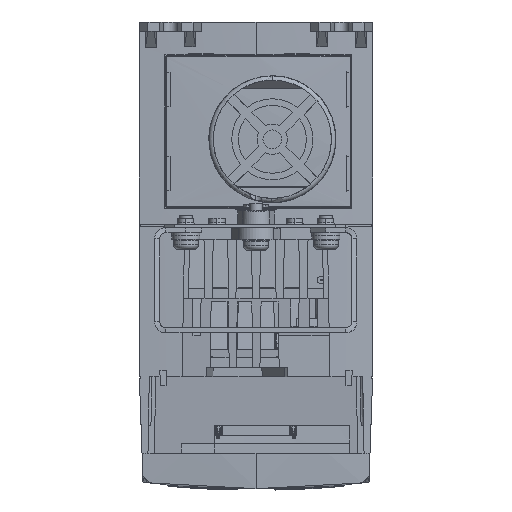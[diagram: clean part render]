
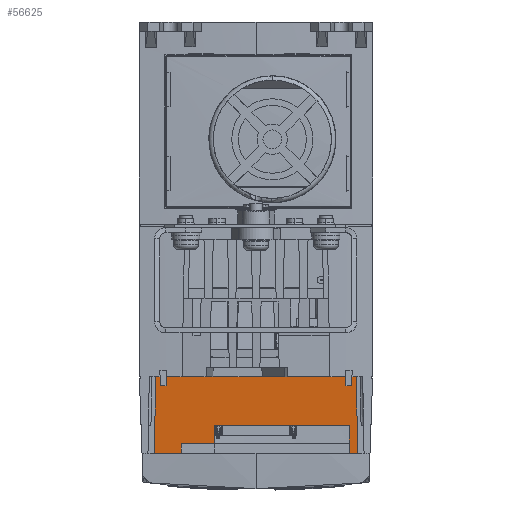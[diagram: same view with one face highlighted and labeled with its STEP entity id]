
A CAD part, front view. The second image highlights one B-rep face of the part: STEP entity #56625.
In plain terms, the highlighted planar face has unit normal (0, -0.996, -0.087).
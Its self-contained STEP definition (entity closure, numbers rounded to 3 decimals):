
#247 = DIRECTION ( 'NONE',  ( -1., 0., 0. ) ) ;
#492 = EDGE_CURVE ( 'NONE', #65433, #123253, #57073, .T. ) ;
#606 = CARTESIAN_POINT ( 'NONE',  ( -32.681, -18.639, -138.7 ) ) ;
#803 = ORIENTED_EDGE ( 'NONE', *, *, #111574, .F. ) ;
#1173 = LINE ( 'NONE', #53835, #84989 ) ;
#4025 = VERTEX_POINT ( 'NONE', #40295 ) ;
#4399 = CARTESIAN_POINT ( 'NONE',  ( -19.218, -20.8, -114. ) ) ;
#5054 = ORIENTED_EDGE ( 'NONE', *, *, #61659, .T. ) ;
#5450 = ORIENTED_EDGE ( 'NONE', *, *, #38957, .F. ) ;
#7184 = DIRECTION ( 'NONE',  ( -0.017, -0.087, 0.996 ) ) ;
#8820 = ORIENTED_EDGE ( 'NONE', *, *, #116180, .F. ) ;
#10459 = CARTESIAN_POINT ( 'NONE',  ( -24.056, -18.919, -135.5 ) ) ;
#10494 = DIRECTION ( 'NONE',  ( 0., -0.087, 0.996 ) ) ;
#10551 = VERTEX_POINT ( 'NONE', #128954 ) ;
#12972 = CARTESIAN_POINT ( 'NONE',  ( 15.874, -20.8, -114. ) ) ;
#13215 = EDGE_CURVE ( 'NONE', #116108, #101022, #89800, .T. ) ;
#17881 = CARTESIAN_POINT ( 'NONE',  ( 32.25, -20.8, -114. ) ) ;
#18061 = LINE ( 'NONE', #29818, #108222 ) ;
#18420 = DIRECTION ( 'NONE',  ( -1., 0., 0. ) ) ;
#21170 = VECTOR ( 'NONE', #90203, 1000. ) ;
#21823 = FACE_OUTER_BOUND ( 'NONE', #82124, .T. ) ;
#23387 = CARTESIAN_POINT ( 'NONE',  ( 32.681, -18.639, -138.7 ) ) ;
#26550 = CARTESIAN_POINT ( 'NONE',  ( 23.218, -20.8, -114. ) ) ;
#26745 = LINE ( 'NONE', #80040, #41443 ) ;
#28128 = CARTESIAN_POINT ( 'NONE',  ( -24., -18.639, -138.7 ) ) ;
#29622 = VECTOR ( 'NONE', #104893, 1000. ) ;
#29818 = CARTESIAN_POINT ( 'NONE',  ( 1.992, -20.8, -114. ) ) ;
#33249 = DIRECTION ( 'NONE',  ( 1., 0., 0. ) ) ;
#33342 = EDGE_CURVE ( 'NONE', #65730, #85111, #26745, .T. ) ;
#35123 = DIRECTION ( 'NONE',  ( 0.017, -0.087, 0.996 ) ) ;
#35255 = ORIENTED_EDGE ( 'NONE', *, *, #100074, .F. ) ;
#35807 = VECTOR ( 'NONE', #33249, 1000. ) ;
#37364 = EDGE_CURVE ( 'NONE', #79874, #89402, #114452, .T. ) ;
#38569 = VECTOR ( 'NONE', #18420, 1000. ) ;
#38957 = EDGE_CURVE ( 'NONE', #10551, #134940, #85908, .T. ) ;
#39106 = VECTOR ( 'NONE', #46018, 1000. ) ;
#39399 = LINE ( 'NONE', #61549, #53437 ) ;
#39669 = VECTOR ( 'NONE', #119703, 1000. ) ;
#40295 = CARTESIAN_POINT ( 'NONE',  ( -13.892, -20.8, -114. ) ) ;
#41443 = VECTOR ( 'NONE', #68279, 1000. ) ;
#42577 = DIRECTION ( 'NONE',  ( 0., 0.996, 0.087 ) ) ;
#42942 = CARTESIAN_POINT ( 'NONE',  ( 23.218, -20.8, -114. ) ) ;
#43010 = EDGE_CURVE ( 'NONE', #96584, #60635, #124705, .T. ) ;
#45387 = LINE ( 'NONE', #46751, #107028 ) ;
#45570 = ORIENTED_EDGE ( 'NONE', *, *, #130220, .F. ) ;
#45684 = LINE ( 'NONE', #118356, #39669 ) ;
#46018 = DIRECTION ( 'NONE',  ( -0.017, -0.087, 0.996 ) ) ;
#46751 = CARTESIAN_POINT ( 'NONE',  ( -32.25, -20.8, -114. ) ) ;
#48510 = EDGE_CURVE ( 'NONE', #89402, #4025, #39399, .T. ) ;
#50068 = ORIENTED_EDGE ( 'NONE', *, *, #51850, .F. ) ;
#50412 = CARTESIAN_POINT ( 'NONE',  ( -13.25, -18.919, -135.5 ) ) ;
#50971 = ORIENTED_EDGE ( 'NONE', *, *, #13215, .F. ) ;
#51850 = EDGE_CURVE ( 'NONE', #96584, #123253, #86113, .T. ) ;
#53437 = VECTOR ( 'NONE', #90659, 1000. ) ;
#53835 = CARTESIAN_POINT ( 'NONE',  ( 29.95, -19.426, -129.7 ) ) ;
#53889 = ORIENTED_EDGE ( 'NONE', *, *, #130044, .F. ) ;
#53986 = EDGE_CURVE ( 'NONE', #134940, #83936, #79166, .T. ) ;
#54358 = CARTESIAN_POINT ( 'NONE',  ( -32.25, -18.55, -139.718 ) ) ;
#55021 = CARTESIAN_POINT ( 'NONE',  ( -13.892, -20.8, -114. ) ) ;
#55029 = PLANE ( 'NONE',  #74776 ) ;
#55706 = CARTESIAN_POINT ( 'NONE',  ( -13.25, -19.426, -129.7 ) ) ;
#56380 = CARTESIAN_POINT ( 'NONE',  ( -24., -18.639, -138.7 ) ) ;
#56625 = ADVANCED_FACE ( 'NONE', ( #21823 ), #55029, .F. ) ;
#57073 = LINE ( 'NONE', #56380, #39106 ) ;
#57832 = VERTEX_POINT ( 'NONE', #92859 ) ;
#58950 = EDGE_CURVE ( 'NONE', #57832, #72479, #18061, .T. ) ;
#59234 = ORIENTED_EDGE ( 'NONE', *, *, #53986, .F. ) ;
#60635 = VERTEX_POINT ( 'NONE', #55706 ) ;
#60951 = ORIENTED_EDGE ( 'NONE', *, *, #43010, .T. ) ;
#60954 = DIRECTION ( 'NONE',  ( 1., 0., 0. ) ) ;
#61064 = CARTESIAN_POINT ( 'NONE',  ( -13.25, -18.919, -135.5 ) ) ;
#61079 = ORIENTED_EDGE ( 'NONE', *, *, #33342, .F. ) ;
#61270 = CARTESIAN_POINT ( 'NONE',  ( 32.182, -20.8, -114. ) ) ;
#61549 = CARTESIAN_POINT ( 'NONE',  ( -19.218, -20.8, -114. ) ) ;
#61659 = EDGE_CURVE ( 'NONE', #134567, #97916, #70908, .T. ) ;
#61885 = VECTOR ( 'NONE', #122741, 1000. ) ;
#62681 = LINE ( 'NONE', #55021, #29622 ) ;
#63535 = VECTOR ( 'NONE', #87170, 1000. ) ;
#64863 = VECTOR ( 'NONE', #85076, 1000. ) ;
#64903 = EDGE_CURVE ( 'NONE', #101022, #79874, #45387, .T. ) ;
#65433 = VERTEX_POINT ( 'NONE', #103734 ) ;
#65730 = VERTEX_POINT ( 'NONE', #126682 ) ;
#66856 = VECTOR ( 'NONE', #7184, 1000. ) ;
#68279 = DIRECTION ( 'NONE',  ( 0., -0.087, 0.996 ) ) ;
#70908 = LINE ( 'NONE', #124123, #66856 ) ;
#72479 = VERTEX_POINT ( 'NONE', #12972 ) ;
#74577 = ORIENTED_EDGE ( 'NONE', *, *, #58950, .F. ) ;
#74776 = AXIS2_PLACEMENT_3D ( 'NONE', #54358, #42577, #75134 ) ;
#75134 = DIRECTION ( 'NONE',  ( 1., 0., 0. ) ) ;
#75334 = LINE ( 'NONE', #23387, #64863 ) ;
#77330 = DIRECTION ( 'NONE',  ( -1., 0., 0. ) ) ;
#78306 = VECTOR ( 'NONE', #10494, 1000. ) ;
#79166 = LINE ( 'NONE', #26550, #21170 ) ;
#79874 = VERTEX_POINT ( 'NONE', #82032 ) ;
#80040 = CARTESIAN_POINT ( 'NONE',  ( 29.95, -18.639, -138.7 ) ) ;
#82032 = CARTESIAN_POINT ( 'NONE',  ( -32.182, -20.8, -114. ) ) ;
#82104 = LINE ( 'NONE', #28128, #38569 ) ;
#82124 = EDGE_LOOP ( 'NONE', ( #50971, #45570, #121612, #50068, #60951, #53889, #61079, #803, #5054, #8820, #59234, #5450, #35255, #74577, #85952, #86894, #120831, #135877 ) ) ;
#83936 = VERTEX_POINT ( 'NONE', #61270 ) ;
#84989 = VECTOR ( 'NONE', #77330, 1000. ) ;
#85076 = DIRECTION ( 'NONE',  ( -1., 0., 0. ) ) ;
#85111 = VERTEX_POINT ( 'NONE', #115948 ) ;
#85130 = VECTOR ( 'NONE', #35123, 1000. ) ;
#85908 = LINE ( 'NONE', #128066, #35807 ) ;
#85952 = ORIENTED_EDGE ( 'NONE', *, *, #89355, .F. ) ;
#86113 = LINE ( 'NONE', #128259, #111309 ) ;
#86894 = ORIENTED_EDGE ( 'NONE', *, *, #48510, .F. ) ;
#87170 = DIRECTION ( 'NONE',  ( 1., 0., 0. ) ) ;
#87654 = DIRECTION ( 'NONE',  ( 1., 0., 0. ) ) ;
#89355 = EDGE_CURVE ( 'NONE', #4025, #57832, #62681, .T. ) ;
#89402 = VERTEX_POINT ( 'NONE', #4399 ) ;
#89800 = LINE ( 'NONE', #119535, #85130 ) ;
#90203 = DIRECTION ( 'NONE',  ( 1., 0., 0. ) ) ;
#90659 = DIRECTION ( 'NONE',  ( 1., 0., 0. ) ) ;
#92859 = CARTESIAN_POINT ( 'NONE',  ( 1.992, -20.8, -114. ) ) ;
#93675 = CARTESIAN_POINT ( 'NONE',  ( 32.681, -18.639, -138.7 ) ) ;
#96584 = VERTEX_POINT ( 'NONE', #50412 ) ;
#96812 = CARTESIAN_POINT ( 'NONE',  ( 32.182, -20.8, -114. ) ) ;
#97508 = LINE ( 'NONE', #96812, #63535 ) ;
#97916 = VERTEX_POINT ( 'NONE', #17881 ) ;
#100074 = EDGE_CURVE ( 'NONE', #72479, #10551, #45684, .T. ) ;
#101022 = VERTEX_POINT ( 'NONE', #114826 ) ;
#103734 = CARTESIAN_POINT ( 'NONE',  ( -24., -18.639, -138.7 ) ) ;
#104893 = DIRECTION ( 'NONE',  ( 1., 0., 0. ) ) ;
#107028 = VECTOR ( 'NONE', #87654, 1000. ) ;
#108222 = VECTOR ( 'NONE', #60954, 1000. ) ;
#111309 = VECTOR ( 'NONE', #247, 1000. ) ;
#111574 = EDGE_CURVE ( 'NONE', #134567, #65730, #75334, .T. ) ;
#114452 = LINE ( 'NONE', #124796, #61885 ) ;
#114826 = CARTESIAN_POINT ( 'NONE',  ( -32.25, -20.8, -114. ) ) ;
#115948 = CARTESIAN_POINT ( 'NONE',  ( 29.95, -19.426, -129.7 ) ) ;
#116108 = VERTEX_POINT ( 'NONE', #606 ) ;
#116180 = EDGE_CURVE ( 'NONE', #83936, #97916, #97508, .T. ) ;
#118356 = CARTESIAN_POINT ( 'NONE',  ( 15.874, -20.8, -114. ) ) ;
#119535 = CARTESIAN_POINT ( 'NONE',  ( -32.681, -18.639, -138.7 ) ) ;
#119703 = DIRECTION ( 'NONE',  ( 1., 0., 0. ) ) ;
#120831 = ORIENTED_EDGE ( 'NONE', *, *, #37364, .F. ) ;
#121612 = ORIENTED_EDGE ( 'NONE', *, *, #492, .T. ) ;
#122741 = DIRECTION ( 'NONE',  ( 1., 0., 0. ) ) ;
#123253 = VERTEX_POINT ( 'NONE', #10459 ) ;
#124123 = CARTESIAN_POINT ( 'NONE',  ( 32.681, -18.639, -138.7 ) ) ;
#124705 = LINE ( 'NONE', #61064, #78306 ) ;
#124796 = CARTESIAN_POINT ( 'NONE',  ( -32.182, -20.8, -114. ) ) ;
#126682 = CARTESIAN_POINT ( 'NONE',  ( 29.95, -18.639, -138.7 ) ) ;
#128066 = CARTESIAN_POINT ( 'NONE',  ( 21.526, -20.8, -114. ) ) ;
#128259 = CARTESIAN_POINT ( 'NONE',  ( -13.25, -18.919, -135.5 ) ) ;
#128954 = CARTESIAN_POINT ( 'NONE',  ( 21.526, -20.8, -114. ) ) ;
#130044 = EDGE_CURVE ( 'NONE', #85111, #60635, #1173, .T. ) ;
#130220 = EDGE_CURVE ( 'NONE', #65433, #116108, #82104, .T. ) ;
#134567 = VERTEX_POINT ( 'NONE', #93675 ) ;
#134940 = VERTEX_POINT ( 'NONE', #42942 ) ;
#135877 = ORIENTED_EDGE ( 'NONE', *, *, #64903, .F. ) ;
